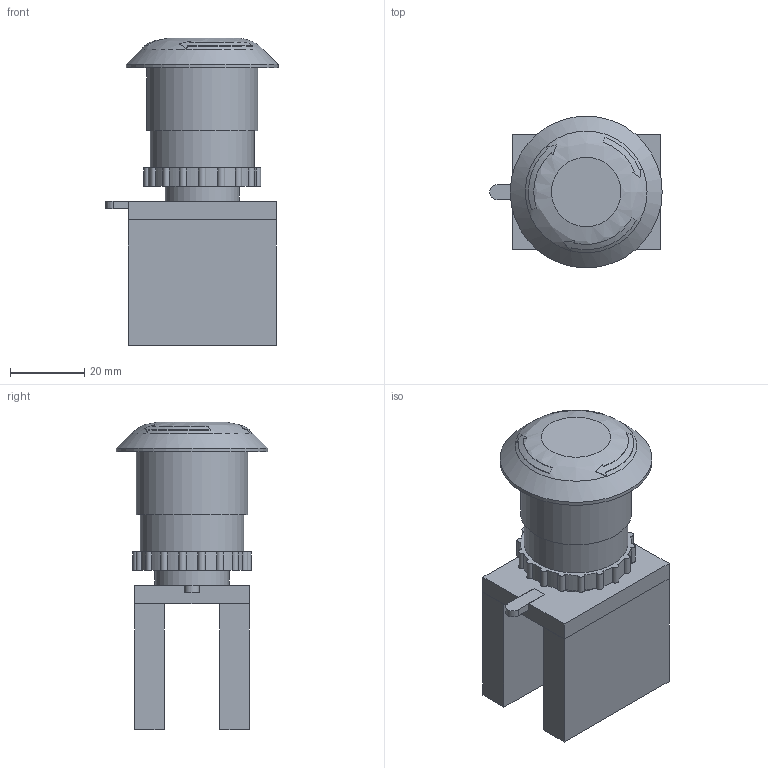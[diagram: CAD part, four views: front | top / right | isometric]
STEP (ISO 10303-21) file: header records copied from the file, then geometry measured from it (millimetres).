
FILE_DESCRIPTION(/* description */ (''),/* implementation_level */ '2;1');
FILE_NAME(/* name */ 'D:\CHINT3\NP8-ZS.stp',/* time_stamp */ '2017-12-10T21:04:23+03:00',/* author */ ('RSagdiev'),/* organization */ (''),/* preprocessor_version */ 'ST-DEVELOPER v16.5',/* originating_system */ 'Autodesk Inventor 2017',/* authorisation */ '');
FILE_SCHEMA (('CONFIG_CONTROL_DESIGN','AUTOMOTIVE_DESIGN { 1 0 10303 214 3 1 1 }'));
Length unit declared in the file: millimetre
Products named in the file (1): NP8-ZS
Bounding box: 46.5 x 41 x 83 mm (x, y, z)
Volume: 67191.4 mm3; surface area: 24610 mm2
Topology: 10 solids, 10 shells, 144 faces, 364 edges, 242 vertices
Faces by surface type: plane 90, cylinder 48, bspline 4, cone 2
Full cylindrical faces by diameter (mm): 20 x2, 28 x1, 30 x1, 41 x1
Entity records: 4436 total; most frequent: CARTESIAN_POINT 821, DIRECTION 756, ORIENTED_EDGE 716, EDGE_CURVE 358, AXIS2_PLACEMENT_3D 265, VERTEX_POINT 242, LINE 226, VECTOR 226
